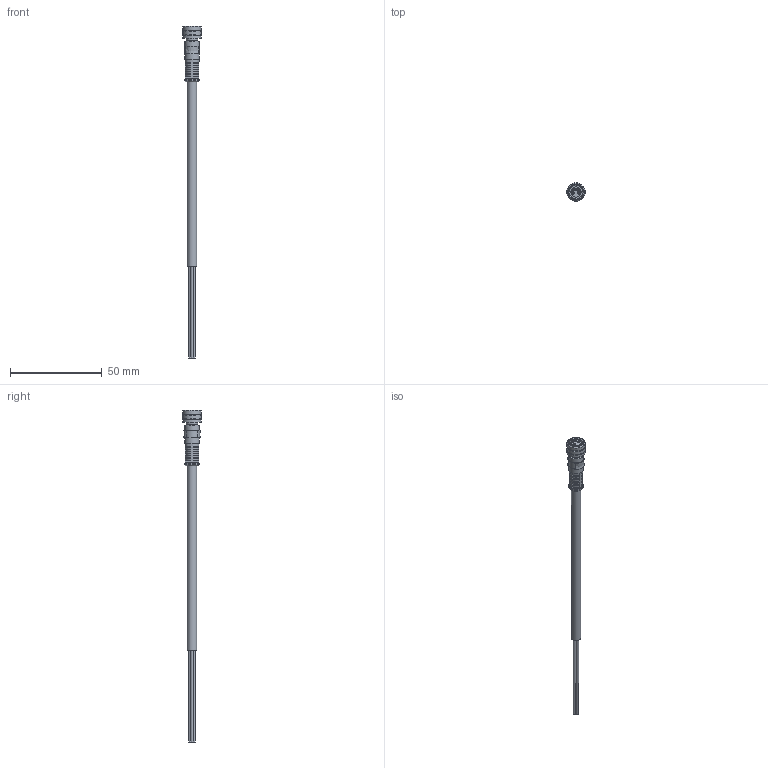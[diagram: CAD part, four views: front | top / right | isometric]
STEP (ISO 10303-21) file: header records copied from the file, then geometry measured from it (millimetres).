
FILE_DESCRIPTION(/* description */ ('Katalogmodell Elobau'),/* implementation_level */ '2;1');
FILE_NAME(/* name */ 'K04.00._D.stp',/* time_stamp */ '2016-12-08T09:44:56+01:00',/* author */ ('Elobau GmbH & Co. KG'),/* organization */ ('Elobau GmbH & Co. KG'),/* preprocessor_version */ 'ST-DEVELOPER v15',/* originating_system */ 'SIEMENS PLM Software NX 8.5',/* authorisation */ '');
FILE_SCHEMA (('AUTOMOTIVE_DESIGN { 1 0 10303 214 3 1 1 1 }'));
Length unit declared in the file: millimetre
Products named in the file (1): K04.00._D
Bounding box: 10 x 10 x 180.68 mm (x, y, z)
Volume: 3643.2 mm3; surface area: 3947.7 mm2
Topology: 1 solids, 1 shells, 168 faces, 381 edges, 255 vertices
Faces by surface type: plane 114, cylinder 24, extrusion 20, cone 8, revolution 2
Full cylindrical faces by diameter (mm): 1.35 x4, 1.6 x4, 5 x1, 5.6 x1, 5.8 x1, 6.28 x1, 7.1 x1, 7.8 x1, 8 x2, 8.3 x1, 9.2 x2, 10 x3
Entity records: 6916 total; most frequent: CARTESIAN_POINT 2539, ORIENTED_EDGE 686, DIRECTION 518, EDGE_CURVE 343, VERTEX_POINT 246, EDGE_LOOP 237, AXIS2_PLACEMENT_3D 221, B_SPLINE_CURVE_WITH_KNOTS 220
